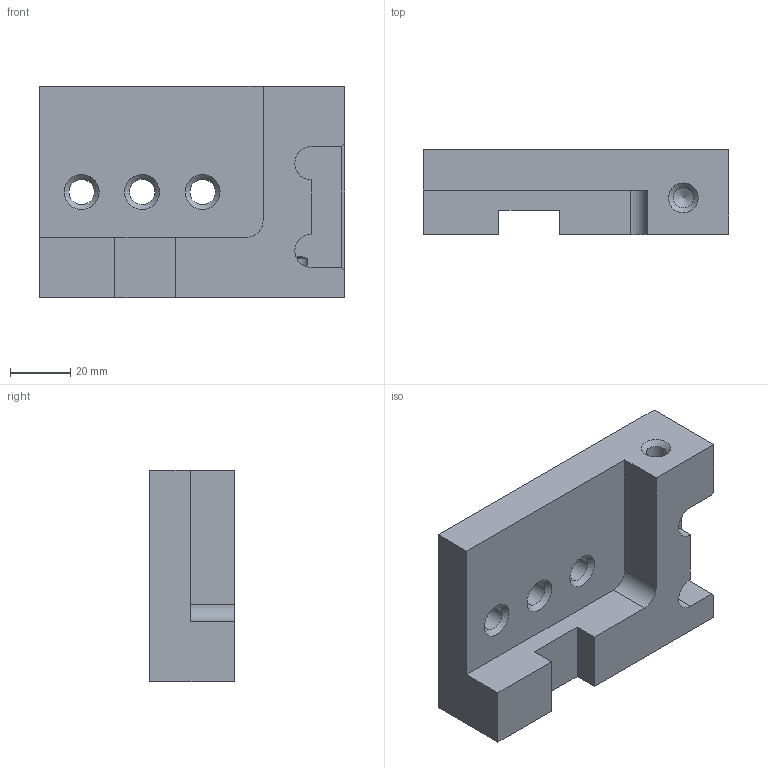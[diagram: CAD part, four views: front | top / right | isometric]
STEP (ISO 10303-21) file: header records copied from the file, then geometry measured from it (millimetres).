
FILE_DESCRIPTION(('STEP AP203'), '1');
FILE_NAME('ÒÏÏÔ1800.01.01.00.014 Êðåïëåíèå èçì1', '', ('UNSPECIFIED'), ('UNSPECIFIED'), 'C3D Converter', 'C3D Toolkit', '');
FILE_SCHEMA(('CONFIG_CONTROL_DESIGN'));
Length unit declared in the file: millimetre
Products named in the file (1): ТППФ1800.01.01.00.014-02
Bounding box: 101 x 28 x 70 mm (x, y, z)
Volume: 127666.2 mm3; surface area: 26384.2 mm2
Topology: 1 solids, 1 shells, 47 faces, 121 edges, 75 vertices
Faces by surface type: plane 20, cone 16, cylinder 11
Full cylindrical faces by diameter (mm): 6.647 x5, 8.376 x3
Entity records: 1922 total; most frequent: CARTESIAN_POINT 446, DIRECTION 222, ORIENTED_EDGE 188, EDGE_CURVE 94, AXIS2_PLACEMENT_3D 83, EDGE_LOOP 77, VERTEX_POINT 71, LINE 56
